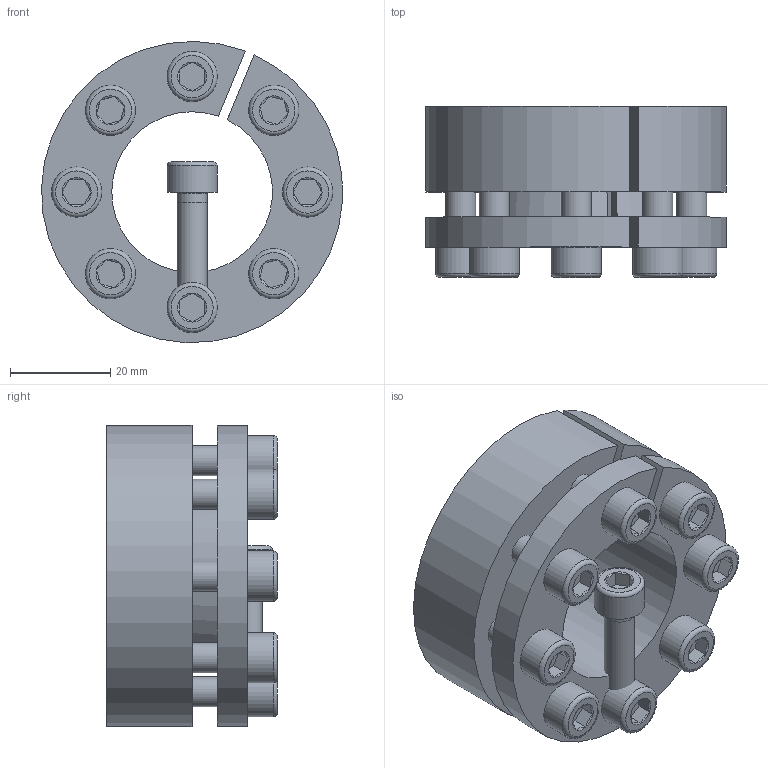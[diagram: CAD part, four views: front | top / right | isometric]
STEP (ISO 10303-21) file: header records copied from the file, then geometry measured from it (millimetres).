
FILE_DESCRIPTION( ( 'Unknown' ), '1' );
FILE_NAME( 'C:/Dokumente und Einstellungen/Sven/Desktop/homepage/cad - homepage/KBS13/KBS 13 - 32 x 60.stp', 'Unknown', ( 'Unknown' ), ( 'Unknown' ), 'XStep 1.0', 'Unknown', ' ' );
FILE_SCHEMA( ( 'automotive_design' ) );
Length unit declared in the file: millimetre
Products named in the file (3): Assem1; KBS 13 - 32 x 60; ISO EN DIN 4762 M6x20
Bounding box: 59.92 x 34 x 59.96 mm (x, y, z)
Volume: 92584.1 mm3; surface area: 43568.9 mm2
Topology: 11 solids, 11 shells, 281 faces, 573 edges, 350 vertices
Faces by surface type: plane 122, cylinder 74, cone 67, torus 18
Full cylindrical faces by diameter (mm): 5 x9, 6 x50, 10 x9
Entity records: 1774 total; most frequent: CARTESIAN_POINT 293, DIRECTION 272, ORIENTED_EDGE 194, AXIS2_PLACEMENT_3D 122, EDGE_LOOP 112, EDGE_CURVE 97, FACE_OUTER_BOUND 75, VERTEX_POINT 75
